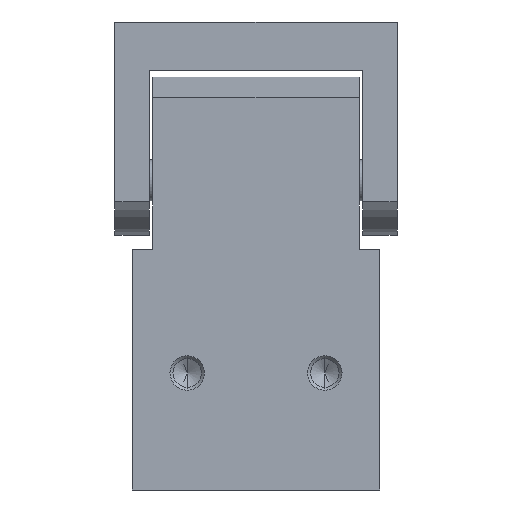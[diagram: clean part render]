
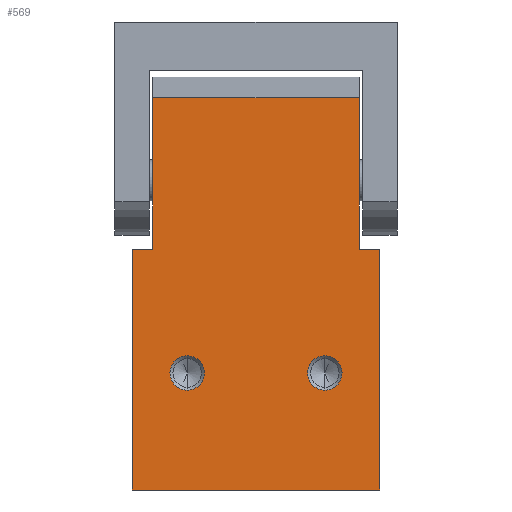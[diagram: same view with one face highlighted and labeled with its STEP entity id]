
A CAD part, left-side view. The second image highlights one B-rep face of the part: STEP entity #569.
In plain terms, the highlighted planar face has unit normal (-1, 0, 0).
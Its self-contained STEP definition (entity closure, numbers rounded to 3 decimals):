
#4 = FACE_OUTER_BOUND ( 'NONE', #800, .T. ) ;
#101 = VECTOR ( 'NONE', #4964, 1000. ) ;
#110 = LINE ( 'NONE', #5444, #101 ) ;
#221 = DIRECTION ( 'NONE',  ( 0., -1., 0. ) ) ;
#322 = EDGE_CURVE ( 'NONE', #4771, #4539, #4157, .T. ) ;
#339 = CARTESIAN_POINT ( 'NONE',  ( -18., 10., 17. ) ) ;
#351 = VERTEX_POINT ( 'NONE', #5636 ) ;
#360 = EDGE_CURVE ( 'NONE', #5710, #4771, #5669, .T. ) ;
#507 = VERTEX_POINT ( 'NONE', #1894 ) ;
#546 = PLANE ( 'NONE',  #5446 ) ;
#569 = ADVANCED_FACE ( 'NONE', ( #4, #2447, #4406 ), #546, .F. ) ;
#614 = CARTESIAN_POINT ( 'NONE',  ( -18., 18., 35. ) ) ;
#625 = ORIENTED_EDGE ( 'NONE', *, *, #1442, .F. ) ;
#673 = CARTESIAN_POINT ( 'NONE',  ( -18., 18., 35. ) ) ;
#800 = EDGE_LOOP ( 'NONE', ( #5327, #4154, #2899, #2019, #625, #2023, #3061, #5214 ) ) ;
#808 = VERTEX_POINT ( 'NONE', #1124 ) ;
#815 = EDGE_CURVE ( 'NONE', #808, #6252, #4309, .T. ) ;
#1008 = DIRECTION ( 'NONE',  ( 0., 0., -1. ) ) ;
#1099 = DIRECTION ( 'NONE',  ( 0., -1., 0. ) ) ;
#1124 = CARTESIAN_POINT ( 'NONE',  ( -18., 10., 19.5 ) ) ;
#1190 = VECTOR ( 'NONE', #1225, 1000. ) ;
#1225 = DIRECTION ( 'NONE',  ( 0., 0., -1. ) ) ;
#1334 = ORIENTED_EDGE ( 'NONE', *, *, #815, .T. ) ;
#1365 = DIRECTION ( 'NONE',  ( 1., 0., 0. ) ) ;
#1417 = CARTESIAN_POINT ( 'NONE',  ( -18., 18., 35. ) ) ;
#1442 = EDGE_CURVE ( 'NONE', #3421, #5908, #110, .T. ) ;
#1527 = EDGE_CURVE ( 'NONE', #2974, #351, #3282, .T. ) ;
#1628 = DIRECTION ( 'NONE',  ( 0., 0., -1. ) ) ;
#1721 = VECTOR ( 'NONE', #1099, 1000. ) ;
#1862 = EDGE_CURVE ( 'NONE', #4372, #507, #5020, .T. ) ;
#1894 = CARTESIAN_POINT ( 'NONE',  ( -18., -18., 35. ) ) ;
#1910 = LINE ( 'NONE', #3359, #4865 ) ;
#1929 = CARTESIAN_POINT ( 'NONE',  ( -18., -10., 14.5 ) ) ;
#2019 = ORIENTED_EDGE ( 'NONE', *, *, #5102, .T. ) ;
#2023 = ORIENTED_EDGE ( 'NONE', *, *, #4823, .F. ) ;
#2056 = DIRECTION ( 'NONE',  ( 0., 1., 0. ) ) ;
#2155 = CARTESIAN_POINT ( 'NONE',  ( -18., -15., 57. ) ) ;
#2161 = DIRECTION ( 'NONE',  ( 0., -1., 0. ) ) ;
#2333 = ORIENTED_EDGE ( 'NONE', *, *, #4949, .T. ) ;
#2394 = EDGE_CURVE ( 'NONE', #6252, #808, #5936, .T. ) ;
#2447 = FACE_BOUND ( 'NONE', #6139, .T. ) ;
#2498 = CARTESIAN_POINT ( 'NONE',  ( -18., -15., 35. ) ) ;
#2588 = LINE ( 'NONE', #4550, #2822 ) ;
#2799 = VERTEX_POINT ( 'NONE', #4673 ) ;
#2822 = VECTOR ( 'NONE', #1628, 1000. ) ;
#2899 = ORIENTED_EDGE ( 'NONE', *, *, #1862, .F. ) ;
#2962 = CARTESIAN_POINT ( 'NONE',  ( -18., 18., 35. ) ) ;
#2974 = VERTEX_POINT ( 'NONE', #1929 ) ;
#2977 = DIRECTION ( 'NONE',  ( 0., 0., 1. ) ) ;
#3061 = ORIENTED_EDGE ( 'NONE', *, *, #3569, .F. ) ;
#3088 = CARTESIAN_POINT ( 'NONE',  ( -18., 10., 17. ) ) ;
#3126 = CARTESIAN_POINT ( 'NONE',  ( -18., 18., 0. ) ) ;
#3164 = AXIS2_PLACEMENT_3D ( 'NONE', #339, #4261, #6220 ) ;
#3282 = CIRCLE ( 'NONE', #5243, 2.5 ) ;
#3294 = LINE ( 'NONE', #5259, #6008 ) ;
#3357 = ORIENTED_EDGE ( 'NONE', *, *, #2394, .T. ) ;
#3359 = CARTESIAN_POINT ( 'NONE',  ( -18., 15., 35. ) ) ;
#3421 = VERTEX_POINT ( 'NONE', #5464 ) ;
#3449 = DIRECTION ( 'NONE',  ( 1., 0., 0. ) ) ;
#3569 = EDGE_CURVE ( 'NONE', #5710, #2799, #5560, .T. ) ;
#3602 = DIRECTION ( 'NONE',  ( 1., 0., 0. ) ) ;
#4061 = CARTESIAN_POINT ( 'NONE',  ( -18., -10., 17. ) ) ;
#4154 = ORIENTED_EDGE ( 'NONE', *, *, #5063, .F. ) ;
#4157 = LINE ( 'NONE', #3126, #5712 ) ;
#4261 = DIRECTION ( 'NONE',  ( 1., 0., 0. ) ) ;
#4309 = CIRCLE ( 'NONE', #4518, 2.5 ) ;
#4372 = VERTEX_POINT ( 'NONE', #2498 ) ;
#4406 = FACE_BOUND ( 'NONE', #5889, .T. ) ;
#4518 = AXIS2_PLACEMENT_3D ( 'NONE', #3088, #3602, #5049 ) ;
#4539 = VERTEX_POINT ( 'NONE', #5524 ) ;
#4550 = CARTESIAN_POINT ( 'NONE',  ( -18., -18., 35. ) ) ;
#4616 = DIRECTION ( 'NONE',  ( 0., 0., 1. ) ) ;
#4673 = CARTESIAN_POINT ( 'NONE',  ( -18., 15., 35. ) ) ;
#4693 = CARTESIAN_POINT ( 'NONE',  ( -18., 18., 0. ) ) ;
#4771 = VERTEX_POINT ( 'NONE', #4693 ) ;
#4823 = EDGE_CURVE ( 'NONE', #2799, #3421, #1910, .T. ) ;
#4865 = VECTOR ( 'NONE', #2977, 1000. ) ;
#4936 = CARTESIAN_POINT ( 'NONE',  ( -18., -10., 17. ) ) ;
#4949 = EDGE_CURVE ( 'NONE', #351, #2974, #6109, .T. ) ;
#4964 = DIRECTION ( 'NONE',  ( 0., -1., 0. ) ) ;
#5020 = LINE ( 'NONE', #614, #1721 ) ;
#5049 = DIRECTION ( 'NONE',  ( 0., 0., -1. ) ) ;
#5053 = VECTOR ( 'NONE', #221, 1000. ) ;
#5063 = EDGE_CURVE ( 'NONE', #507, #4539, #2588, .T. ) ;
#5081 = AXIS2_PLACEMENT_3D ( 'NONE', #4936, #1365, #5296 ) ;
#5102 = EDGE_CURVE ( 'NONE', #4372, #5908, #3294, .T. ) ;
#5214 = ORIENTED_EDGE ( 'NONE', *, *, #360, .T. ) ;
#5243 = AXIS2_PLACEMENT_3D ( 'NONE', #4061, #3449, #1008 ) ;
#5259 = CARTESIAN_POINT ( 'NONE',  ( -18., -15., 35. ) ) ;
#5296 = DIRECTION ( 'NONE',  ( 0., 0., -1. ) ) ;
#5301 = ORIENTED_EDGE ( 'NONE', *, *, #1527, .T. ) ;
#5327 = ORIENTED_EDGE ( 'NONE', *, *, #322, .T. ) ;
#5402 = DIRECTION ( 'NONE',  ( 1., 0., 0. ) ) ;
#5444 = CARTESIAN_POINT ( 'NONE',  ( -18., 15., 57. ) ) ;
#5446 = AXIS2_PLACEMENT_3D ( 'NONE', #2962, #5402, #2056 ) ;
#5464 = CARTESIAN_POINT ( 'NONE',  ( -18., 15., 57. ) ) ;
#5524 = CARTESIAN_POINT ( 'NONE',  ( -18., -18., 0. ) ) ;
#5560 = LINE ( 'NONE', #673, #5053 ) ;
#5636 = CARTESIAN_POINT ( 'NONE',  ( -18., -10., 19.5 ) ) ;
#5669 = LINE ( 'NONE', #6184, #1190 ) ;
#5710 = VERTEX_POINT ( 'NONE', #1417 ) ;
#5712 = VECTOR ( 'NONE', #2161, 1000. ) ;
#5889 = EDGE_LOOP ( 'NONE', ( #1334, #3357 ) ) ;
#5908 = VERTEX_POINT ( 'NONE', #2155 ) ;
#5936 = CIRCLE ( 'NONE', #3164, 2.5 ) ;
#5937 = CARTESIAN_POINT ( 'NONE',  ( -18., 10., 14.5 ) ) ;
#6008 = VECTOR ( 'NONE', #4616, 1000. ) ;
#6109 = CIRCLE ( 'NONE', #5081, 2.5 ) ;
#6139 = EDGE_LOOP ( 'NONE', ( #2333, #5301 ) ) ;
#6184 = CARTESIAN_POINT ( 'NONE',  ( -18., 18., 35. ) ) ;
#6220 = DIRECTION ( 'NONE',  ( 0., 0., -1. ) ) ;
#6252 = VERTEX_POINT ( 'NONE', #5937 ) ;
